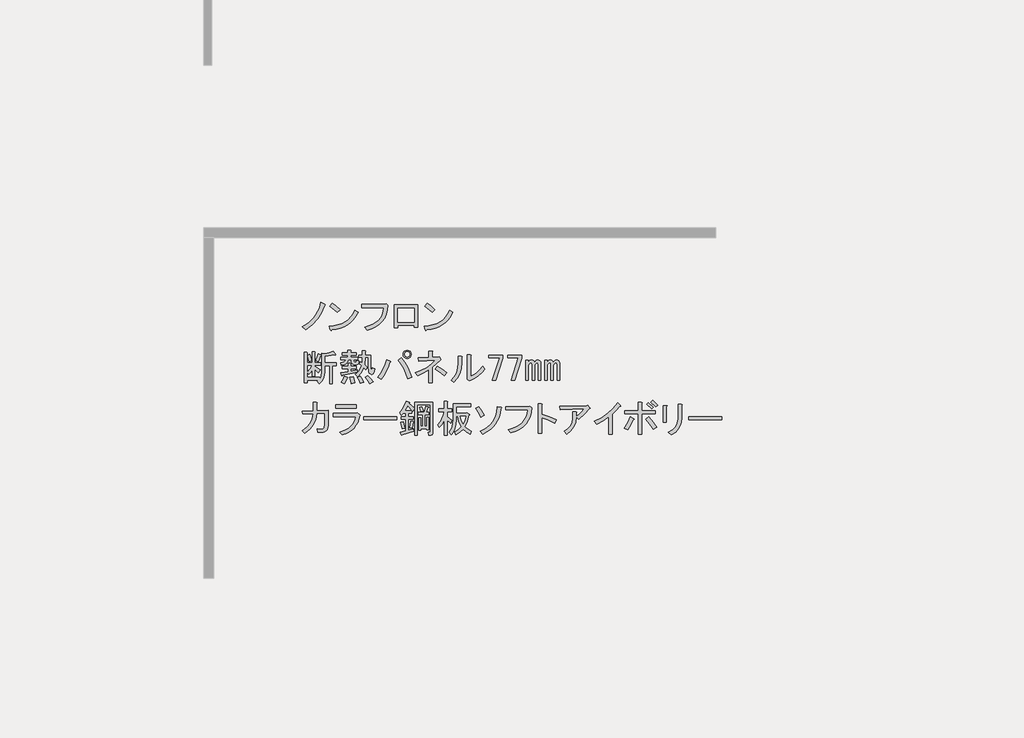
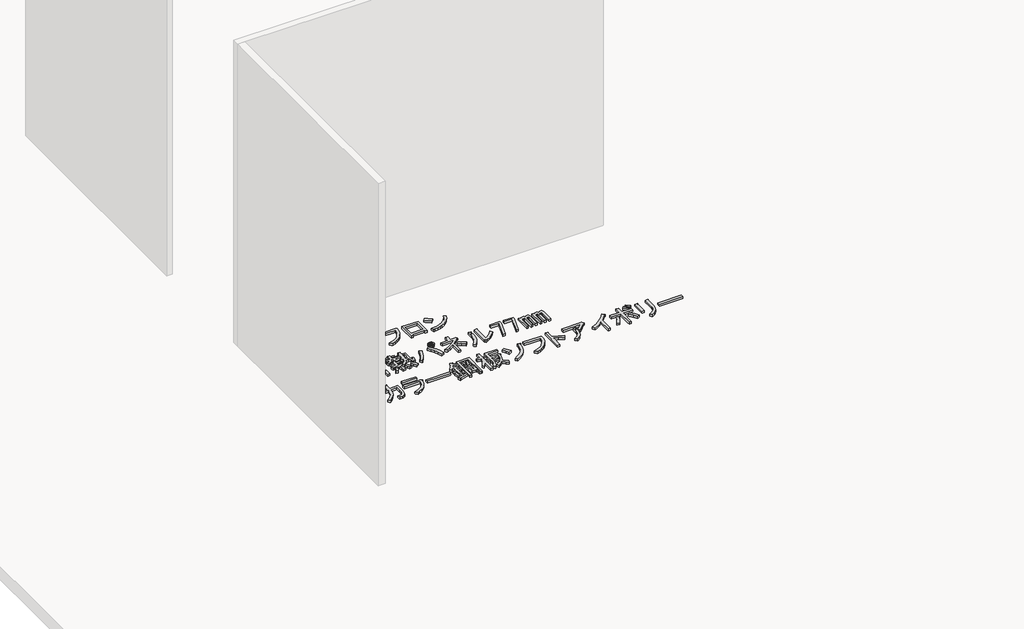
# One storey, part 16 of 117: 1 proxy.
"""IFC4 building model written with IfcOpenShell, lengths in millimetres."""

from ifc_helpers import new_model, si_unit, frame, origin, place, context, project, spatial, polyline, outline, extrude, element, save

model = new_model("IFC4")

# Units and contexts
model_context = context("Model", 3, world=origin())
ifc_project = project(units=[si_unit("LENGTHUNIT", "METRE", prefix="MILLI")], contexts=[model_context])

# Site, building, storey
site = spatial("IfcSite", under=ifc_project)
building = spatial("IfcBuilding", under=site)
storey = spatial("IfcBuildingStorey", under=building, Name="レベル 1", Elevation=500.0)

# Proxy
placement = place(None, origin())
element("IfcBuildingElementProxy", 1, Name="200㎜\u3000MS Pゴシック", ObjectType="200㎜\u3000MS Pゴシック", at=placement, inside=storey, context=model_context, shape_type="SweptSolid", body=[
    extrude(outline(polyline([(-23056.3293015, -607.0496882), (-23081.9047498, -666.8215225), (-23110.353844, -712.7998566), (-23152.0217093, -758.2034615), (-23201.1610538, -795.560858), (-23228.7480543, -773.7211493), (-23181.0455327, -743.2605029), (-23141.3892195, -704.7536481), (-23124.0036619, -680.8305462), (-23108.6296565, -652.7406577), (-23095.2672031, -620.4839827), (-23083.9163019, -584.0605212), (-23052.8809264, -597.8540214), (-23049.7199159, -602.4518548), (-23056.3293015, -607.0496882)])), frame((0.0, 0.0, 500.0), z_axis=(0.0, 0.0, 1.0), x_axis=(1.0, 0.0, 0.0)), (0.0, 0.0, 1.0), 25.0),
    extrude(outline(polyline([(-22956.6022948, -662.2236891), (-23015.2246708, -615.0958967), (-22995.6838788, -590.9572713), (-22968.3842429, -610.7854279), (-22934.7625862, -640.3839804), (-22956.6022948, -662.2236891)])), frame((0.0, 0.0, 500.0), z_axis=(0.0, 0.0, 1.0), x_axis=(1.0, 0.0, 0.0)), (0.0, 0.0, 1.0), 25.0),
    extrude(outline(polyline([(-22794.5286672, -662.2236891), (-22811.052131, -691.965924), (-22830.1618761, -717.9724192), (-22851.8579025, -740.2431748), (-22876.1402102, -758.7781907), (-22903.0087992, -773.577467), (-22932.4636694, -784.6410036), (-22964.504821, -791.9688006), (-22999.1322539, -795.560858), (-23004.8795456, -803.6070664), (-23010.6268374, -797.8597747), (-23019.8225042, -767.9738575), (-22983.9917321, -765.2977748), (-22951.2142088, -758.9937141), (-22921.4899342, -749.0616756), (-22894.8189084, -735.5016591), (-22871.2011313, -718.3136646), (-22850.636603, -697.4976923), (-22833.1253234, -673.053742), (-22818.6672926, -644.9818138), (-22794.5286672, -662.2236891)])), frame((0.0, 0.0, 500.0), z_axis=(0.0, 0.0, 1.0), x_axis=(1.0, 0.0, 0.0)), (0.0, 0.0, 1.0), 25.0),
    extrude(outline(polyline([(-22743.7685864, -777.1695243), (-22709.985287, -767.4889298), (-22680.4765359, -755.1142922), (-22655.242333, -740.0456116), (-22634.2826783, -722.282888), (-22617.597572, -701.8261214), (-22605.1870138, -678.6753118), (-22597.0510039, -652.8304591), (-22593.1895423, -624.2915635), (-22765.6082951, -624.2915635), (-22765.6082951, -599.0034798), (-22590.8906256, -599.0034798), (-22574.7982086, -595.5551047), (-22562.1541668, -607.0496882), (-22565.674383, -643.5449909), (-22573.9361149, -676.5919185), (-22586.9393625, -706.1904711), (-22604.6841258, -732.3406486), (-22627.1704048, -755.042451), (-22654.3981995, -774.2958784), (-22686.3675099, -790.1009308), (-22723.078336, -802.4576081), (-22743.7685864, -777.1695243)])), frame((0.0, 0.0, 500.0), z_axis=(0.0, 0.0, 1.0), x_axis=(1.0, 0.0, 0.0)), (0.0, 0.0, 1.0), 25.0),
    extrude(outline(polyline([(-22329.044013, -776.020066), (-22355.4815551, -776.020066), (-22355.4815551, -763.3760241), (-22483.0714321, -763.3760241), (-22483.0714321, -781.7673577), (-22509.5089742, -781.7673577), (-22509.5089742, -602.4518548), (-22329.044013, -602.4518548), (-22329.044013, -776.020066)]), holes=[polyline([(-22483.0714321, -627.7399386), (-22483.0714321, -738.0879404), (-22355.4815551, -738.0879404), (-22355.4815551, -627.7399386), (-22483.0714321, -627.7399386)])]), frame((0.0, 0.0, 500.0), z_axis=(0.0, 0.0, 1.0), x_axis=(1.0, 0.0, 0.0)), (0.0, 0.0, 1.0), 25.0),
    extrude(outline(polyline([(-22052.9900951, -662.2236891), (-22069.5135589, -691.965924), (-22088.623304, -717.9724192), (-22110.3193304, -740.2431748), (-22134.6016381, -758.7781907), (-22161.4702271, -773.577467), (-22190.9250974, -784.6410036), (-22222.9662489, -791.9688006), (-22257.5936818, -795.560858), (-22263.3409736, -803.6070664), (-22269.0882653, -797.8597747), (-22278.2839321, -767.9738575), (-22242.4531601, -765.2977748), (-22209.6756367, -758.9937141), (-22179.9513622, -749.0616756), (-22153.2803363, -735.5016591), (-22129.6625593, -718.3136646), (-22109.0980309, -697.4976923), (-22091.5867514, -673.053742), (-22077.1287205, -644.9818138), (-22052.9900951, -662.2236891)])), frame((0.0, 0.0, 500.0), z_axis=(0.0, 0.0, 1.0), x_axis=(1.0, 0.0, 0.0)), (0.0, 0.0, 1.0), 25.0),
    extrude(outline(polyline([(-22215.0637228, -662.2236891), (-22273.6860987, -615.0958967), (-22254.1453067, -590.9572713), (-22226.8456709, -610.7854279), (-22193.2240141, -640.3839804), (-22215.0637228, -662.2236891)])), frame((0.0, 0.0, 500.0), z_axis=(0.0, 0.0, 1.0), x_axis=(1.0, 0.0, 0.0)), (0.0, 0.0, 1.0), 25.0),
    extrude(outline(polyline([(-23122.9978859, -1039.2345221), (-23105.7560106, -986.3594379), (-23085.0657603, -992.1067296), (-23083.3415727, -995.2677401), (-23087.364677, -997.8540214), (-23104.6065522, -1046.1312722), (-23122.9978859, -1039.2345221)])), frame((0.0, 0.0, 500.0), z_axis=(0.0, 0.0, 1.0), x_axis=(1.0, 0.0, 0.0)), (0.0, 0.0, 1.0), 25.0),
    extrude(outline(polyline([(-22968.9704667, -990.9572713), (-22970.6946542, -995.5551047), (-22978.1661335, -993.256188), (-23055.1798431, -1005.9002299), (-23055.1798431, -1055.326939), (-22963.2231749, -1055.326939), (-22963.2231749, -1077.1666477), (-22994.2585505, -1077.1666477), (-22994.2585505, -1217.4005666), (-23017.2477175, -1217.4005666), (-23017.2477175, -1077.1666477), (-23055.1798431, -1077.1666477), (-23055.1798431, -1126.5933568), (-23057.7661244, -1154.3958807), (-23065.5249683, -1179.1810764), (-23078.4563747, -1200.948944), (-23096.5603438, -1219.6994833), (-23113.8022191, -1200.1586914), (-23103.4570939, -1190.9630245), (-23193.1148454, -1190.9630245), (-23193.1148454, -1212.8027332), (-23216.1040124, -1212.8027332), (-23216.1040124, -973.715396), (-23194.2643037, -973.715396), (-23189.3791057, -976.0143127), (-23193.1148454, -980.6121461), (-23193.1148454, -1056.4763974), (-23150.5848863, -1056.4763974), (-23150.5848863, -969.1175626), (-23132.1935527, -969.1175626), (-23127.3083547, -971.4164793), (-23131.0440943, -976.0143127), (-23131.0440943, -1056.4763974), (-23087.364677, -1056.4763974), (-23087.364677, -1074.867731), (-23131.0440943, -1074.867731), (-23131.0440943, -1084.0633978), (-23090.813052, -1110.5009399), (-23104.6065522, -1132.3406486), (-23131.0440943, -1105.9031065), (-23131.0440943, -1158.7781907), (-23150.5848863, -1158.7781907), (-23150.5848863, -1110.5009399), (-23163.8036574, -1130.3290965), (-23178.1718868, -1146.1341488), (-23190.8159287, -1127.7428152), (-23168.97622, -1103.6041898), (-23151.7343447, -1074.867731), (-23193.1148454, -1074.867731), (-23193.1148454, -1169.1233159), (-23095.4108854, -1169.1233159), (-23095.4108854, -1182.9168161), (-23082.479479, -1158.7781907), (-23078.1690102, -1125.4438985), (-23078.1690102, -980.6121461), (-23056.3293015, -986.3594379), (-23020.1213634, -978.8879586), (-22989.660717, -965.6691875), (-22968.9704667, -990.9572713)])), frame((0.0, 0.0, 500.0), z_axis=(0.0, 0.0, 1.0), x_axis=(1.0, 0.0, 0.0)), (0.0, 0.0, 1.0), 25.0),
    extrude(outline(polyline([(-23177.0224284, -1047.2807305), (-23189.6664703, -996.7045631), (-23170.1256783, -989.8078129), (-23162.3668344, -1013.9464383), (-23157.4816364, -1040.3839804), (-23177.0224284, -1047.2807305)])), frame((0.0, 0.0, 500.0), z_axis=(0.0, 0.0, 1.0), x_axis=(1.0, 0.0, 0.0)), (0.0, 0.0, 1.0), 25.0),
    extrude(outline(polyline([(-22878.1632569, -1167.9738575), (-22874.7148818, -1172.8590555), (-22880.4621736, -1176.020066), (-22890.2325696, -1201.5955143), (-22901.1524239, -1220.8489417), (-22924.141591, -1209.3543582), (-22911.4975491, -1185.790462), (-22901.1524239, -1158.7781907), (-22878.1632569, -1167.9738575)])), frame((0.0, 0.0, 500.0), z_axis=(0.0, 0.0, 1.0), x_axis=(1.0, 0.0, 0.0)), (0.0, 0.0, 1.0), 25.0),
    extrude(outline(polyline([(-22833.3343812, -1163.3760241), (-22823.2766206, -1190.67566), (-22818.3914226, -1212.8027332), (-22847.1278814, -1218.550025), (-22849.7141627, -1196.9976809), (-22857.4730066, -1166.8243992), (-22833.3343812, -1163.3760241)])), frame((0.0, 0.0, 500.0), z_axis=(0.0, 0.0, 1.0), x_axis=(1.0, 0.0, 0.0)), (0.0, 0.0, 1.0), 25.0),
    extrude(outline(polyline([(-22718.388546, -1157.6287323), (-22693.6751914, -1178.8937119), (-22674.7091286, -1203.6070664), (-22701.1466707, -1218.550025), (-22720.4000981, -1188.9514724), (-22739.0787963, -1169.1233159), (-22718.388546, -1157.6287323)])), frame((0.0, 0.0, 500.0), z_axis=(0.0, 0.0, 1.0), x_axis=(1.0, 0.0, 0.0)), (0.0, 0.0, 1.0), 25.0),
    extrude(outline(polyline([(-22777.0109219, -1216.2511083), (-22785.344495, -1191.5377537), (-22798.8506306, -1170.2727742), (-22778.1603803, -1162.2265657), (-22761.2058696, -1183.7789098), (-22749.4239215, -1207.0554415), (-22777.0109219, -1216.2511083)])), frame((0.0, 0.0, 500.0), z_axis=(0.0, 0.0, 1.0), x_axis=(1.0, 0.0, 0.0)), (0.0, 0.0, 1.0), 25.0),
    extrude(outline(polyline([(-22916.0953825, -1153.0308989), (-22918.1069346, -1157.9160969), (-22921.8426743, -1156.479274), (-22927.589966, -1132.3406486), (-22872.4159651, -1124.2944401), (-22872.4159651, -1101.3052731), (-22916.0953825, -1101.3052731), (-22916.0953825, -1082.9139395), (-22872.4159651, -1082.9139395), (-22872.4159651, -1059.9247724), (-22854.0246315, -1059.9247724), (-22849.1394335, -1062.2236891), (-22852.8751732, -1066.8215225), (-22852.8751732, -1082.9139395), (-22808.0462974, -1082.9139395), (-22808.0462974, -1101.3052731), (-22852.8751732, -1101.3052731), (-22852.8751732, -1120.8460651), (-22802.2990057, -1111.6503983), (-22802.2990057, -1127.7428152), (-22916.0953825, -1153.0308989)])), frame((0.0, 0.0, 500.0), z_axis=(0.0, 0.0, 1.0), x_axis=(1.0, 0.0, 0.0)), (0.0, 0.0, 1.0), 25.0),
    extrude(outline(polyline([(-22845.978423, -1031.1883136), (-22871.2665068, -1031.1883136), (-22875.8643402, -1048.6457123), (-22886.2094654, -1061.9363245), (-22902.3018823, -1071.0601502), (-22924.141591, -1076.0171893), (-22928.7394244, -1056.4763974), (-22903.4513406, -1047.8554597), (-22895.9798614, -1040.5276627), (-22891.9567571, -1031.1883136), (-22927.589966, -1031.1883136), (-22927.589966, -1012.79698), (-22873.5654235, -1012.79698), (-22873.5654235, -995.5551047), (-22917.2448409, -995.5551047), (-22917.2448409, -977.1637711), (-22873.5654235, -977.1637711), (-22873.5654235, -958.7724374), (-22851.7257148, -958.7724374), (-22846.8405168, -961.0713541), (-22850.5762564, -965.6691875), (-22850.5762564, -977.1637711), (-22808.0462974, -977.1637711), (-22808.0462974, -995.5551047), (-22850.5762564, -995.5551047), (-22850.5762564, -1012.79698), (-22797.7011723, -1012.79698), (-22797.7011723, -1031.1883136), (-22826.4376311, -1031.1883136), (-22826.4376311, -1043.8323555), (-22825.0008081, -1049.0049181), (-22820.6903393, -1050.7291056), (-22810.3452141, -1050.7291056), (-22806.6094745, -1047.5680951), (-22806.8968391, -1038.0850637), (-22787.3560471, -1040.3839804), (-22790.229693, -1061.9363245), (-22795.5459378, -1067.3244106), (-22803.448464, -1069.1204392), (-22827.5870894, -1069.1204392), (-22841.3805896, -1064.2352412), (-22845.978423, -1049.5796472), (-22845.978423, -1031.1883136)])), frame((0.0, 0.0, 500.0), z_axis=(0.0, 0.0, 1.0), x_axis=(1.0, 0.0, 0.0)), (0.0, 0.0, 1.0), 25.0),
    extrude(outline(polyline([(-22714.9401709, -1013.9464383), (-22736.7798796, -1013.9464383), (-22741.377713, -1071.4193559), (-22721.836921, -1089.8106896), (-22732.1820462, -1111.6503983), (-22748.2744631, -1095.5579813), (-22767.5278905, -1133.2027424), (-22797.7011723, -1165.6749408), (-22814.9430475, -1144.9846905), (-22799.8564067, -1133.0590601), (-22786.7813179, -1117.9724192), (-22775.7177813, -1099.7247679), (-22766.6657967, -1078.316106), (-22783.907672, -1063.3731475), (-22775.8614636, -1046.1312722), (-22762.0679633, -1056.4763974), (-22759.7690466, -1013.9464383), (-22787.3560471, -1013.9464383), (-22787.3560471, -995.5551047), (-22759.7690466, -995.5551047), (-22759.7690466, -961.0713541), (-22737.9293379, -961.0713541), (-22733.04414, -963.3702708), (-22736.7798796, -967.9681043), (-22736.7798796, -995.5551047), (-22695.3993789, -995.5551047), (-22695.3993789, -1092.1096063), (-22691.9510039, -1116.2482317), (-22688.7181523, -1118.2597838), (-22685.9163475, -1115.0987733), (-22681.6058787, -1093.2590646), (-22662.0650867, -1100.1558147), (-22666.591079, -1126.9525626), (-22674.421764, -1142.9731384), (-22685.5571418, -1148.2175421), (-22699.9972123, -1142.6857738), (-22706.5347567, -1135.3579768), (-22711.2044313, -1123.719711), (-22714.9401709, -1087.5117729), (-22714.9401709, -1013.9464383)])), frame((0.0, 0.0, 500.0), z_axis=(0.0, 0.0, 1.0), x_axis=(1.0, 0.0, 0.0)), (0.0, 0.0, 1.0), 25.0),
    extrude(outline(polyline([(-22456.3120417, -1016.245355), (-22429.6589762, -1052.9561812), (-22407.1726971, -1090.6727833), (-22388.8532047, -1129.3951616), (-22374.7004987, -1169.1233159), (-22405.7358742, -1179.468441), (-22421.1817208, -1136.3637528), (-22438.7828018, -1097.856898), (-22458.5391173, -1063.9478766), (-22480.4506671, -1034.6366887), (-22456.3120417, -1016.245355)])), frame((0.0, 0.0, 500.0), z_axis=(0.0, 0.0, 1.0), x_axis=(1.0, 0.0, 0.0)), (0.0, 0.0, 1.0), 25.0),
    extrude(outline(polyline([(-22543.6708765, -1042.6828971), (-22539.6477722, -1048.1428243), (-22545.9697932, -1053.0280223), (-22557.8954236, -1088.4457078), (-22572.9820644, -1122.282888), (-22591.2297158, -1154.539563), (-22612.6383776, -1185.2157328), (-22639.0759197, -1167.9738575), (-22615.8712292, -1136.5074351), (-22596.8333252, -1103.0294606), (-22581.9622078, -1067.539934), (-22571.2578769, -1030.0388553), (-22543.6708765, -1042.6828971)])), frame((0.0, 0.0, 500.0), z_axis=(0.0, 0.0, 1.0), x_axis=(1.0, 0.0, 0.0)), (0.0, 0.0, 1.0), 25.0),
    extrude(outline(polyline([(-22410.3337076, -1021.9926468), (-22422.9777495, -1019.6937301), (-22433.3228747, -1012.79698), (-22440.2196248, -1002.4518548), (-22442.5185415, -989.8078129), (-22440.2196248, -977.1637711), (-22433.3228747, -966.8186459), (-22422.9777495, -959.9218958), (-22410.3337076, -957.6229791), (-22397.6896657, -959.9218958), (-22387.3445406, -966.8186459), (-22380.4477905, -977.1637711), (-22378.1488738, -989.8078129), (-22380.4477905, -1002.4518548), (-22387.3445406, -1012.79698), (-22397.6896657, -1019.6937301), (-22410.3337076, -1021.9926468)]), holes=[polyline([(-22410.3337076, -1010.4980633), (-22402.0001346, -1009.0612403), (-22395.390749, -1004.7507715), (-22391.0802802, -998.141386), (-22389.6434573, -989.8078129), (-22391.0802802, -981.4742399), (-22395.390749, -974.8648544), (-22402.0001346, -970.5543855), (-22410.3337076, -969.1175626), (-22418.6672807, -970.5543855), (-22425.2766662, -974.8648544), (-22429.587135, -981.4742399), (-22431.023958, -989.8078129), (-22429.587135, -998.141386), (-22425.2766662, -1004.7507715), (-22418.6672807, -1009.0612403), (-22410.3337076, -1010.4980633)])]), frame((0.0, 0.0, 500.0), z_axis=(0.0, 0.0, 1.0), x_axis=(1.0, 0.0, 0.0)), (0.0, 0.0, 1.0), 25.0),
    extrude(outline(polyline([(-22120.6702029, -1155.3298156), (-22157.7402348, -1126.0186277), (-22190.7871624, -1104.7536481), (-22173.5452871, -1082.9139395), (-22134.7510677, -1106.1904711), (-22101.1294109, -1132.3406486), (-22120.6702029, -1155.3298156)])), frame((0.0, 0.0, 500.0), z_axis=(0.0, 0.0, 1.0), x_axis=(1.0, 0.0, 0.0)), (0.0, 0.0, 1.0), 25.0),
    extrude(outline(polyline([(-22166.648537, -1011.6475216), (-22159.7517869, -1009.3486049), (-22147.107745, -1026.5904802), (-22145.9582866, -1032.6251366), (-22151.7055784, -1034.6366887), (-22214.9257878, -1090.9601479), (-22214.9257878, -1211.6532749), (-22241.3633299, -1211.6532749), (-22241.3633299, -1109.3514816), (-22281.5943722, -1133.4901069), (-22326.4232479, -1155.3298156), (-22345.9640399, -1134.6395653), (-22300.4167527, -1115.1706145), (-22259.1799343, -1092.3969709), (-22222.2535848, -1066.3186345), (-22189.637704, -1036.9356054), (-22319.5264978, -1042.6828971), (-22322.9748729, -1017.3948134), (-22241.3633299, -1015.0958967), (-22241.3633299, -963.3702708), (-22218.3741628, -963.3702708), (-22212.3395065, -966.8186459), (-22214.9257878, -972.5659377), (-22214.9257878, -1013.9464383), (-22166.648537, -1011.6475216)])), frame((0.0, 0.0, 500.0), z_axis=(0.0, 0.0, 1.0), x_axis=(1.0, 0.0, 0.0)), (0.0, 0.0, 1.0), 25.0),
    extrude(outline(polyline([(-22067.703162, -1193.2619413), (-22042.5587606, -1164.0225944), (-22024.5984738, -1131.4785548), (-22013.8223018, -1095.6298225), (-22010.2302444, -1056.4763974), (-22010.2302444, -1004.7507715), (-21986.091619, -1004.7507715), (-21980.3443273, -1008.1991466), (-21983.7927023, -1013.9464383), (-21983.7927023, -1055.326939), (-21987.6002831, -1101.0897496), (-21999.0230255, -1141.82368), (-22018.0609295, -1177.5287301), (-22044.713995, -1208.2048998), (-22067.703162, -1193.2619413)])), frame((0.0, 0.0, 500.0), z_axis=(0.0, 0.0, 1.0), x_axis=(1.0, 0.0, 0.0)), (0.0, 0.0, 1.0), 25.0),
    extrude(outline(polyline([(-21913.6757429, -1162.2265657), (-21888.8905471, -1150.0135708), (-21865.1111275, -1132.9153778), (-21842.3374839, -1110.9319868), (-21820.5696163, -1084.0633978), (-21804.4771994, -1105.9031065), (-21827.753731, -1133.7056304), (-21853.9039086, -1157.3413678), (-21882.9277319, -1176.8103186), (-21914.8252012, -1192.1124829), (-21924.020868, -1196.7103163), (-21942.4122017, -1182.9168161), (-21940.113285, -1177.1695243), (-21940.113285, -992.1067296), (-21915.9746596, -992.1067296), (-21910.2273678, -995.5551047), (-21913.6757429, -1001.3023965), (-21913.6757429, -1162.2265657)])), frame((0.0, 0.0, 500.0), z_axis=(0.0, 0.0, 1.0), x_axis=(1.0, 0.0, 0.0)), (0.0, 0.0, 1.0), 25.0),
    extrude(outline(polyline([(-21772.2923656, -995.5551047), (-21663.0938221, -995.5551047), (-21663.0938221, -1020.8431884), (-21718.267823, -1192.1124829), (-21743.5559068, -1192.1124829), (-21688.3819059, -1017.3948134), (-21772.2923656, -1017.3948134), (-21772.2923656, -995.5551047)])), frame((0.0, 0.0, 500.0), z_axis=(0.0, 0.0, 1.0), x_axis=(1.0, 0.0, 0.0)), (0.0, 0.0, 1.0), 25.0),
    extrude(outline(polyline([(-21625.1616965, -995.5551047), (-21515.9631531, -995.5551047), (-21515.9631531, -1020.8431884), (-21571.137154, -1192.1124829), (-21596.4252377, -1192.1124829), (-21541.2512368, -1017.3948134), (-21625.1616965, -1017.3948134), (-21625.1616965, -995.5551047)])), frame((0.0, 0.0, 500.0), z_axis=(0.0, 0.0, 1.0), x_axis=(1.0, 0.0, 0.0)), (0.0, 0.0, 1.0), 25.0),
    extrude(outline(polyline([(-21241.2426069, -1032.337772), (-21232.9090339, -1033.7745949), (-21226.2996483, -1038.0850637), (-21221.1270858, -1046.7060014), (-21219.4028982, -1058.7753141), (-21219.4028982, -1193.2619413), (-21238.9436902, -1193.2619413), (-21238.9436902, -1069.1204392), (-21241.5299715, -1059.6374078), (-21249.2888154, -1056.4763974), (-21259.6339406, -1061.0742308), (-21265.6685969, -1069.6951684), (-21267.680149, -1079.4655644), (-21267.680149, -1193.2619413), (-21287.220941, -1193.2619413), (-21287.220941, -1069.1204392), (-21289.8072223, -1059.6374078), (-21297.5660662, -1056.4763974), (-21307.9111913, -1061.0742308), (-21313.9458477, -1069.6951684), (-21315.9573998, -1079.4655644), (-21315.9573998, -1193.2619413), (-21335.4981918, -1193.2619413), (-21335.4981918, -1035.786147), (-21315.9573998, -1035.786147), (-21315.9573998, -1053.0280223), (-21303.8880871, -1037.5103346), (-21290.6693161, -1032.337772), (-21281.4736492, -1033.7745949), (-21274.5768991, -1038.0850637), (-21267.680149, -1051.878564), (-21254.7487426, -1037.22297), (-21241.2426069, -1032.337772)])), frame((0.0, 0.0, 500.0), z_axis=(0.0, 0.0, 1.0), x_axis=(1.0, 0.0, 0.0)), (0.0, 0.0, 1.0), 25.0),
    extrude(outline(polyline([(-21463.0880689, -1193.2619413), (-21482.6288608, -1193.2619413), (-21482.6288608, -1035.786147), (-21463.0880689, -1035.786147), (-21463.0880689, -1053.0280223), (-21451.0187562, -1037.5103346), (-21437.7999851, -1032.337772), (-21428.6043183, -1033.7745949), (-21421.7075682, -1038.0850637), (-21414.8108181, -1051.878564), (-21401.8794116, -1037.22297), (-21388.373276, -1032.337772), (-21380.0397029, -1033.7745949), (-21373.4303174, -1038.0850637), (-21368.2577548, -1046.7060014), (-21366.5335673, -1058.7753141), (-21366.5335673, -1193.2619413), (-21386.0743593, -1193.2619413), (-21386.0743593, -1069.1204392), (-21388.6606406, -1059.6374078), (-21396.4194844, -1056.4763974), (-21406.7646096, -1061.0742308), (-21412.799266, -1069.6951684), (-21414.8108181, -1079.4655644), (-21414.8108181, -1193.2619413), (-21434.3516101, -1193.2619413), (-21434.3516101, -1069.1204392), (-21436.9378914, -1059.6374078), (-21444.6967352, -1056.4763974), (-21455.0418604, -1061.0742308), (-21461.0765167, -1069.6951684), (-21463.0880689, -1079.4655644), (-21463.0880689, -1193.2619413)])), frame((0.0, 0.0, 500.0), z_axis=(0.0, 0.0, 1.0), x_axis=(1.0, 0.0, 0.0)), (0.0, 0.0, 1.0), 25.0),
    extrude(outline(polyline([(-23052.8809264, -1450.7291056), (-23118.4000525, -1453.0280223), (-23126.6617844, -1499.293721), (-23144.55023, -1540.3868571), (-23172.0653893, -1576.3074306), (-23209.2072623, -1607.0554415), (-23228.7480543, -1587.5146495), (-23193.7614157, -1559.2810787), (-23168.1141262, -1527.4554506), (-23151.8061858, -1492.0377651), (-23144.8375946, -1453.0280223), (-23226.4491376, -1455.326939), (-23228.7480543, -1432.337772), (-23143.6881362, -1430.0388553), (-23143.6881362, -1365.6691875), (-23119.5495108, -1365.6691875), (-23112.6527607, -1369.1175626), (-23117.2505941, -1374.8648544), (-23117.2505941, -1430.0388553), (-23026.4433843, -1426.5904802), (-23026.4433843, -1497.856898), (-23029.0296656, -1545.8467842), (-23036.7885095, -1577.1695243), (-23043.397895, -1587.2272849), (-23052.8809264, -1594.4113996), (-23065.2376037, -1598.7218684), (-23080.4679269, -1600.1586914), (-23108.0549273, -1600.1586914), (-23111.5033024, -1571.4222326), (-23081.6173852, -1573.7211493), (-23067.5365204, -1570.8475034), (-23059.7776765, -1562.2265657), (-23054.6051139, -1536.938482), (-23052.8809264, -1497.856898), (-23052.8809264, -1450.7291056)])), frame((0.0, 0.0, 500.0), z_axis=(0.0, 0.0, 1.0), x_axis=(1.0, 0.0, 0.0)), (0.0, 0.0, 1.0), 25.0),
    extrude(outline(polyline([(-22808.1382541, -1410.4980633), (-22966.7635067, -1410.4980633), (-22966.7635067, -1385.2099795), (-22808.1382541, -1385.2099795), (-22808.1382541, -1410.4980633)])), frame((0.0, 0.0, 500.0), z_axis=(0.0, 0.0, 1.0), x_axis=(1.0, 0.0, 0.0)), (0.0, 0.0, 1.0), 25.0),
    extrude(outline(polyline([(-22938.0270479, -1596.7103163), (-22888.3848153, -1578.3908238), (-22868.1435721, -1566.2676303), (-22850.9555777, -1552.1688052), (-22836.820832, -1536.0943485), (-22825.7393351, -1518.0442603), (-22817.7110869, -1498.0185406), (-22812.7360875, -1476.0171893), (-22987.453757, -1476.0171893), (-22987.453757, -1450.7291056), (-22811.5866291, -1450.7291056), (-22801.241504, -1447.2807305), (-22780.5512536, -1459.9247724), (-22777.6776078, -1465.3846996), (-22782.8501703, -1470.2698976), (-22788.9746281, -1497.7491363), (-22798.1523347, -1522.7139349), (-22810.3832899, -1545.1642933), (-22825.667494, -1565.1002116), (-22844.0049467, -1582.5216898), (-22865.3956483, -1597.4287278), (-22889.8395985, -1609.8213256), (-22917.3367975, -1619.6994833), (-22938.0270479, -1596.7103163)])), frame((0.0, 0.0, 500.0), z_axis=(0.0, 0.0, 1.0), x_axis=(1.0, 0.0, 0.0)), (0.0, 0.0, 1.0), 25.0),
    extrude(outline(polyline([(-22749.1020731, -1501.3052731), (-22749.1020731, -1476.0171893), (-22492.7728606, -1476.0171893), (-22492.7728606, -1501.3052731), (-22749.1020731, -1501.3052731)])), frame((0.0, 0.0, 500.0), z_axis=(0.0, 0.0, 1.0), x_axis=(1.0, 0.0, 0.0)), (0.0, 0.0, 1.0), 25.0),
    extrude(outline(polyline([(-22297.6408108, -1397.8540214), (-22290.4566961, -1413.0843446), (-22284.9967689, -1433.4872303), (-22302.2386442, -1439.2345221), (-22313.7332277, -1402.4518548), (-22297.6408108, -1397.8540214)])), frame((0.0, 0.0, 500.0), z_axis=(0.0, 0.0, 1.0), x_axis=(1.0, 0.0, 0.0)), (0.0, 0.0, 1.0), 25.0),
    extrude(outline(polyline([(-22244.7657266, -1399.0034798), (-22242.1794453, -1402.4518548), (-22248.2141016, -1405.9002299), (-22260.8581435, -1443.8323555), (-22240.1678932, -1443.8323555), (-22240.1678932, -1462.2236891), (-22271.2032687, -1462.2236891), (-22271.2032687, -1550.7319822), (-22256.2603101, -1550.7319822), (-22256.2603101, -1482.9139395), (-22240.1678932, -1482.9139395), (-22240.1678932, -1577.1695243), (-22256.2603101, -1577.1695243), (-22256.2603101, -1569.1233159), (-22302.2386442, -1569.1233159), (-22302.2386442, -1581.7673577), (-22318.3310611, -1581.7673577), (-22318.3310611, -1485.2128562), (-22302.2386442, -1485.2128562), (-22302.2386442, -1550.7319822), (-22287.2956856, -1550.7319822), (-22287.2956856, -1462.2236891), (-22322.9288945, -1462.2236891), (-22322.9288945, -1443.8323555), (-22276.9505604, -1443.8323555), (-22266.6054353, -1394.4056463), (-22244.7657266, -1399.0034798)])), frame((0.0, 0.0, 500.0), z_axis=(0.0, 0.0, 1.0), x_axis=(1.0, 0.0, 0.0)), (0.0, 0.0, 1.0), 25.0),
    extrude(outline(polyline([(-22350.515895, -1365.6691875), (-22210.281976, -1365.6691875), (-22210.281976, -1605.9059831), (-22214.0177157, -1617.1132021), (-22225.2249346, -1620.8489417), (-22241.3173515, -1620.8489417), (-22245.9151849, -1599.009233), (-22234.4206014, -1599.009233), (-22230.9722264, -1597.8597747), (-22229.822768, -1594.4113996), (-22229.822768, -1384.0605212), (-22330.975103, -1384.0605212), (-22330.975103, -1623.1478584), (-22350.515895, -1623.1478584), (-22350.515895, -1365.6691875)])), frame((0.0, 0.0, 500.0), z_axis=(0.0, 0.0, 1.0), x_axis=(1.0, 0.0, 0.0)), (0.0, 0.0, 1.0), 25.0),
    extrude(outline(polyline([(-22362.0104785, -1513.949315), (-22359.4241972, -1517.1103254), (-22363.1599368, -1519.6966067), (-22371.2061453, -1566.8243992), (-22389.5974789, -1564.5254825), (-22383.8501872, -1510.5009399), (-22362.0104785, -1513.949315)])), frame((0.0, 0.0, 500.0), z_axis=(0.0, 0.0, 1.0), x_axis=(1.0, 0.0, 0.0)), (0.0, 0.0, 1.0), 25.0),
    extrude(outline(polyline([(-22439.0241881, -1515.0987733), (-22427.5296046, -1566.8243992), (-22448.2198549, -1572.5716909), (-22459.7144384, -1520.8460651), (-22439.0241881, -1515.0987733)])), frame((0.0, 0.0, 500.0), z_axis=(0.0, 0.0, 1.0), x_axis=(1.0, 0.0, 0.0)), (0.0, 0.0, 1.0), 25.0),
    extrude(outline(polyline([(-22365.4588536, -1434.6366887), (-22406.8393542, -1390.9572713), (-22428.6790629, -1430.0388553), (-22373.505062, -1430.0388553), (-22373.505062, -1448.4301889), (-22399.9426041, -1448.4301889), (-22399.9426041, -1477.1666477), (-22362.0104785, -1477.1666477), (-22362.0104785, -1495.5579813), (-22399.9426041, -1495.5579813), (-22399.9426041, -1582.9168161), (-22360.8610201, -1572.5716909), (-22358.5621034, -1592.1124829), (-22450.5187716, -1617.4005666), (-22452.8176883, -1623.1478584), (-22457.4155217, -1619.6994833), (-22464.3122718, -1596.7103163), (-22419.4833961, -1587.5146495), (-22419.4833961, -1495.5579813), (-22457.4155217, -1495.5579813), (-22457.4155217, -1477.1666477), (-22419.4833961, -1477.1666477), (-22419.4833961, -1448.4301889), (-22441.3231048, -1448.4301889), (-22456.2660634, -1466.8215225), (-22468.9101052, -1446.1312722), (-22440.7483756, -1408.4865112), (-22416.035021, -1357.6229791), (-22394.1953124, -1363.3702708), (-22390.7469373, -1367.1060105), (-22396.4942291, -1369.1175626), (-22397.6436874, -1372.5659377), (-22352.8148117, -1410.4980633), (-22365.4588536, -1434.6366887)])), frame((0.0, 0.0, 500.0), z_axis=(0.0, 0.0, 1.0), x_axis=(1.0, 0.0, 0.0)), (0.0, 0.0, 1.0), 25.0),
    extrude(outline(polyline([(-22121.7736829, -1623.1478584), (-22121.7736829, -1503.6041898), (-22139.5902874, -1537.8005758), (-22158.5563502, -1559.927649), (-22170.0509337, -1539.2373987), (-22152.8090584, -1516.5355963), (-22139.0155582, -1492.1096063), (-22128.670433, -1465.9594288), (-22121.7736829, -1438.0850637), (-22163.1541836, -1438.0850637), (-22163.1541836, -1416.245355), (-22121.7736829, -1416.245355), (-22121.7736829, -1356.4735207), (-22099.9339742, -1356.4735207), (-22095.0487762, -1358.7724374), (-22098.7845159, -1363.3702708), (-22098.7845159, -1416.245355), (-22060.8523903, -1416.245355), (-22060.8523903, -1438.0850637), (-22098.7845159, -1438.0850637), (-22098.7845159, -1478.316106), (-22060.8523903, -1504.7536481), (-22071.1975154, -1527.7428152), (-22098.7845159, -1504.7536481), (-22098.7845159, -1623.1478584), (-22121.7736829, -1623.1478584)])), frame((0.0, 0.0, 500.0), z_axis=(0.0, 0.0, 1.0), x_axis=(1.0, 0.0, 0.0)), (0.0, 0.0, 1.0), 25.0),
    extrude(outline(polyline([(-22039.0126816, -1594.4113996), (-22010.2762228, -1577.1695243), (-21988.4365141, -1555.3298156), (-22006.2531185, -1513.3745858), (-22016.0235145, -1472.5688143), (-22028.6675564, -1472.5688143), (-22028.6675564, -1496.7074397), (-22031.1101554, -1538.4471461), (-22038.4379524, -1572.8590555), (-22050.6509474, -1599.9431679), (-22067.7491404, -1619.6994833), (-22081.5426406, -1596.7103163), (-22068.4675518, -1579.3247587), (-22059.1282027, -1557.0540032), (-22053.5245933, -1529.8980496), (-22051.6567234, -1497.856898), (-22051.6567234, -1377.1637711), (-21914.8711796, -1377.1637711), (-21914.8711796, -1399.0034798), (-22028.6675564, -1399.0034798), (-22028.6675564, -1450.7291056), (-21949.3549301, -1450.7291056), (-21943.6076384, -1444.9818138), (-21924.0668464, -1458.7753141), (-21922.6300234, -1462.5110537), (-21927.5152214, -1466.8215225), (-21939.8718987, -1513.3745858), (-21958.5505969, -1554.1803573), (-21939.5845341, -1572.5716909), (-21907.9744294, -1590.9630245), (-21917.1700963, -1615.1016499), (-21945.0444613, -1599.009233), (-21973.4935555, -1573.7211493), (-21997.9195455, -1598.1471392), (-22029.8170148, -1618.550025), (-22039.0126816, -1594.4113996)]), holes=[polyline([(-21994.1838058, -1472.5688143), (-21986.1375974, -1505.6157419), (-21973.4935555, -1533.4901069), (-21960.8495136, -1507.3399294), (-21952.8033052, -1472.5688143), (-21994.1838058, -1472.5688143)])]), frame((0.0, 0.0, 500.0), z_axis=(0.0, 0.0, 1.0), x_axis=(1.0, 0.0, 0.0)), (0.0, 0.0, 1.0), 25.0),
    extrude(outline(polyline([(-21835.5585533, -1479.4655644), (-21855.961439, -1440.0966158), (-21875.7895956, -1411.6475216), (-21850.5015118, -1397.8540214), (-21830.3859907, -1426.5904802), (-21809.1210112, -1464.5226058), (-21835.5585533, -1479.4655644)])), frame((0.0, 0.0, 500.0), z_axis=(0.0, 0.0, 1.0), x_axis=(1.0, 0.0, 0.0)), (0.0, 0.0, 1.0), 25.0),
    extrude(outline(polyline([(-21741.3029684, -1517.39769), (-21729.1618145, -1496.5637574), (-21719.1758951, -1469.6951684), (-21711.3452101, -1436.7919231), (-21705.6697595, -1397.8540214), (-21676.9333007, -1402.4518548), (-21672.0481027, -1406.1875945), (-21678.082759, -1412.79698), (-21683.3271628, -1448.1428243), (-21692.1636238, -1480.6150228), (-21704.5921423, -1510.2135753), (-21720.6127181, -1536.938482), (-21736.705135, -1555.9045448), (-21758.5448437, -1574.8706076), (-21819.4661363, -1612.8027332), (-21840.1563867, -1592.1124829), (-21809.4083758, -1576.2355894), (-21782.6834691, -1558.4908261), (-21759.9816666, -1538.878193), (-21741.3029684, -1517.39769)])), frame((0.0, 0.0, 500.0), z_axis=(0.0, 0.0, 1.0), x_axis=(1.0, 0.0, 0.0)), (0.0, 0.0, 1.0), 25.0),
    extrude(outline(polyline([(-21619.6902747, -1577.1695243), (-21585.9069754, -1567.4889298), (-21556.3982242, -1555.1142922), (-21531.1640214, -1540.0456116), (-21510.2043667, -1522.282888), (-21493.5192603, -1501.8261214), (-21481.1087022, -1478.6753118), (-21472.9726923, -1452.8304591), (-21469.1112306, -1424.2915635), (-21641.5299834, -1424.2915635), (-21641.5299834, -1399.0034798), (-21466.8123139, -1399.0034798), (-21450.719897, -1395.5551047), (-21438.0758551, -1407.0496882), (-21441.5960713, -1443.5449909), (-21449.8578032, -1476.5919185), (-21462.8610508, -1506.1904711), (-21480.6058141, -1532.3406486), (-21503.0920932, -1555.042451), (-21530.3198879, -1574.2958784), (-21562.2891983, -1590.1009308), (-21599.0000244, -1602.4576081), (-21619.6902747, -1577.1695243)])), frame((0.0, 0.0, 500.0), z_axis=(0.0, 0.0, 1.0), x_axis=(1.0, 0.0, 0.0)), (0.0, 0.0, 1.0), 25.0),
    extrude(outline(polyline([(-21357.8436622, -1457.6258557), (-21301.2328383, -1476.5919185), (-21244.0472853, -1501.3052731), (-21257.8407855, -1527.7428152), (-21313.302151, -1501.8800023), (-21357.8436622, -1486.3623145), (-21357.8436622, -1605.9059831), (-21384.2812042, -1605.9059831), (-21384.2812042, -1376.0143127), (-21361.2920372, -1376.0143127), (-21353.5331933, -1378.8879586), (-21357.8436622, -1385.2099795), (-21357.8436622, -1457.6258557)])), frame((0.0, 0.0, 500.0), z_axis=(0.0, 0.0, 1.0), x_axis=(1.0, 0.0, 0.0)), (0.0, 0.0, 1.0), 25.0),
    extrude(outline(polyline([(-21089.5600828, -1478.316106), (-21093.3676636, -1519.5529244), (-21107.0893227, -1555.9045448), (-21130.72506, -1587.3709672), (-21164.2748757, -1613.9521916), (-21183.8156677, -1592.1124829), (-21154.1452739, -1571.8532794), (-21132.9521356, -1547.8583363), (-21120.2362526, -1520.1276536), (-21115.9976249, -1488.6612312), (-21115.9976249, -1439.2345221), (-21091.8589995, -1439.2345221), (-21086.1117077, -1441.8208034), (-21089.5600828, -1447.2807305), (-21089.5600828, -1477.1666477), (-21053.0647801, -1446.4186368), (-21026.3398734, -1416.245355), (-21213.7015848, -1423.1421052), (-21216.0005015, -1396.7045631), (-21006.7990814, -1390.9572713), (-20998.752873, -1388.6583546), (-20981.5109977, -1409.3486049), (-20981.2236331, -1412.5096154), (-20987.2582895, -1412.79698), (-21025.1904151, -1456.1890328), (-21070.0192908, -1496.7074397), (-21089.5600828, -1478.316106)])), frame((0.0, 0.0, 500.0), z_axis=(0.0, 0.0, 1.0), x_axis=(1.0, 0.0, 0.0)), (0.0, 0.0, 1.0), 25.0),
    extrude(outline(polyline([(-20947.7169221, -1511.6503983), (-20891.0342572, -1483.7760332), (-20841.6793892, -1450.7291056), (-20799.6523182, -1412.5096154), (-20764.9530442, -1369.1175626), (-20743.1133355, -1387.5088962), (-20740.5270542, -1393.5435526), (-20751.1595439, -1397.8540214), (-20776.1602631, -1426.8778448), (-20807.4830032, -1456.4763974), (-20807.4830032, -1612.8027332), (-20833.9205453, -1612.8027332), (-20833.9205453, -1478.316106), (-20877.5999627, -1507.9146586), (-20928.1761302, -1534.6395653), (-20947.7169221, -1511.6503983)])), frame((0.0, 0.0, 500.0), z_axis=(0.0, 0.0, 1.0), x_axis=(1.0, 0.0, 0.0)), (0.0, 0.0, 1.0), 25.0),
    extrude(outline(polyline([(-20639.7540405, -1492.1096063), (-20637.4551238, -1496.9948043), (-20644.3518739, -1500.1558147), (-20663.8926659, -1538.9500341), (-20688.0312912, -1579.468441), (-20713.319375, -1565.6749408), (-20686.8818329, -1523.1449818), (-20665.0421242, -1478.316106), (-20639.7540405, -1492.1096063)])), frame((0.0, 0.0, 500.0), z_axis=(0.0, 0.0, 1.0), x_axis=(1.0, 0.0, 0.0)), (0.0, 0.0, 1.0), 25.0),
    extrude(outline(polyline([(-20500.6695799, -1416.245355), (-20538.6017055, -1380.6121461), (-20524.8082053, -1366.8186459), (-20486.8760796, -1401.3023965), (-20500.6695799, -1416.245355)])), frame((0.0, 0.0, 500.0), z_axis=(0.0, 0.0, 1.0), x_axis=(1.0, 0.0, 0.0)), (0.0, 0.0, 1.0), 25.0),
    extrude(outline(polyline([(-20468.484746, -1400.1529381), (-20506.4168716, -1362.2208125), (-20491.473913, -1349.5767706), (-20453.5417874, -1386.3594379), (-20468.484746, -1400.1529381)])), frame((0.0, 0.0, 500.0), z_axis=(0.0, 0.0, 1.0), x_axis=(1.0, 0.0, 0.0)), (0.0, 0.0, 1.0), 25.0),
    extrude(outline(polyline([(-20523.6587469, -1478.316106), (-20487.4508088, -1520.2713359), (-20461.5879959, -1558.7781907), (-20486.8760796, -1576.020066), (-20513.6009863, -1534.9269299), (-20545.4984556, -1496.7074397), (-20523.6587469, -1478.316106)])), frame((0.0, 0.0, 500.0), z_axis=(0.0, 0.0, 1.0), x_axis=(1.0, 0.0, 0.0)), (0.0, 0.0, 1.0), 25.0),
    extrude(outline(polyline([(-20578.8327478, -1428.8893969), (-20473.0825794, -1428.8893969), (-20473.0825794, -1454.1774807), (-20578.8327478, -1454.1774807), (-20578.8327478, -1613.9521916), (-20605.2702899, -1613.9521916), (-20605.2702899, -1454.1774807), (-20708.7215416, -1454.1774807), (-20708.7215416, -1428.8893969), (-20605.2702899, -1428.8893969), (-20605.2702899, -1364.5197292), (-20581.1316645, -1364.5197292), (-20574.2349144, -1367.9681043), (-20578.8327478, -1373.715396), (-20578.8327478, -1428.8893969)])), frame((0.0, 0.0, 500.0), z_axis=(0.0, 0.0, 1.0), x_axis=(1.0, 0.0, 0.0)), (0.0, 0.0, 1.0), 25.0),
    extrude(outline(polyline([(-20384.3443946, -1519.6966067), (-20410.7819367, -1519.6966067), (-20410.7819367, -1389.8078129), (-20385.493853, -1389.8078129), (-20379.4591966, -1392.6814588), (-20384.3443946, -1399.0034798), (-20384.3443946, -1519.6966067)])), frame((0.0, 0.0, 500.0), z_axis=(0.0, 0.0, 1.0), x_axis=(1.0, 0.0, 0.0)), (0.0, 0.0, 1.0), 25.0),
    extrude(outline(polyline([(-20265.9501844, -1494.408523), (-20270.9790647, -1534.495883), (-20286.0657055, -1568.5485867), (-20311.210107, -1596.566634), (-20346.412269, -1618.550025), (-20369.4014361, -1599.009233), (-20336.138985, -1579.468441), (-20312.215883, -1555.3298156), (-20297.6321302, -1526.5933568), (-20292.3877265, -1493.2590646), (-20292.3877265, -1378.3132294), (-20268.2491011, -1378.3132294), (-20261.9270801, -1381.7616045), (-20265.9501844, -1387.5088962), (-20265.9501844, -1494.408523)])), frame((0.0, 0.0, 500.0), z_axis=(0.0, 0.0, 1.0), x_axis=(1.0, 0.0, 0.0)), (0.0, 0.0, 1.0), 25.0),
    extrude(outline(polyline([(-20209.6267251, -1501.3052731), (-20209.6267251, -1476.0171893), (-19953.2975126, -1476.0171893), (-19953.2975126, -1501.3052731), (-20209.6267251, -1501.3052731)])), frame((0.0, 0.0, 500.0), z_axis=(0.0, 0.0, 1.0), x_axis=(1.0, 0.0, 0.0)), (0.0, 0.0, 1.0), 25.0),
])

save(model, "model.ifc")
